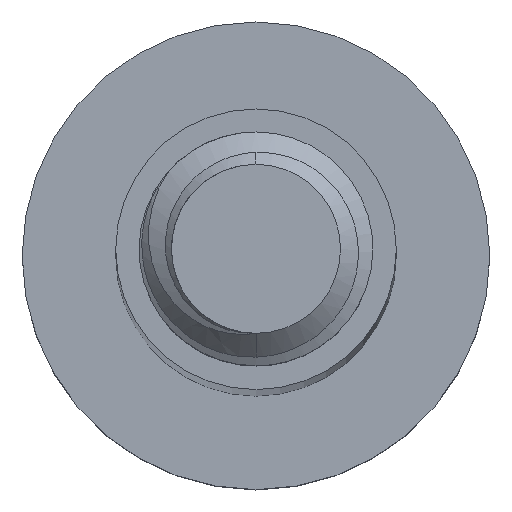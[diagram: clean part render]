
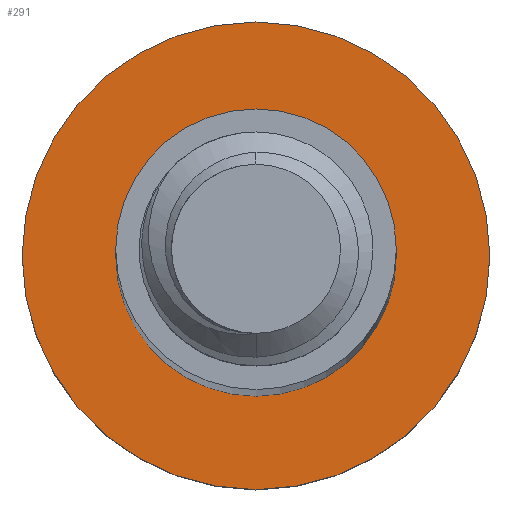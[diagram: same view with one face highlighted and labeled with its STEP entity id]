
A CAD part, top view. The second image highlights one B-rep face of the part: STEP entity #291.
In plain terms, the highlighted planar face has unit normal (0, 0, 1).
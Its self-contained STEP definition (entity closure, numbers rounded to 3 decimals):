
#82 = DIRECTION ( 'NONE',  ( -1., 0., 0. ) ) ;
#107 = ORIENTED_EDGE ( 'NONE', *, *, #181, .F. ) ;
#181 = EDGE_CURVE ( 'NONE', #1255, #2319, #709, .T. ) ;
#195 = EDGE_CURVE ( 'NONE', #2319, #1255, #302, .T. ) ;
#197 = DIRECTION ( 'NONE',  ( 0., 0., -1. ) ) ;
#291 = ADVANCED_FACE ( 'NONE', ( #2070, #951 ), #763, .F. ) ;
#302 = CIRCLE ( 'NONE', #1659, 5. ) ;
#364 = DIRECTION ( 'NONE',  ( -1., 0., 0. ) ) ;
#365 = EDGE_LOOP ( 'NONE', ( #725, #2342 ) ) ;
#469 = VERTEX_POINT ( 'NONE', #773 ) ;
#634 = EDGE_LOOP ( 'NONE', ( #2018, #107 ) ) ;
#709 = CIRCLE ( 'NONE', #1046, 5. ) ;
#720 = DIRECTION ( 'NONE',  ( -1., 0., 0. ) ) ;
#725 = ORIENTED_EDGE ( 'NONE', *, *, #736, .T. ) ;
#736 = EDGE_CURVE ( 'NONE', #469, #1608, #1557, .T. ) ;
#763 = PLANE ( 'NONE',  #1609 ) ;
#773 = CARTESIAN_POINT ( 'NONE',  ( -3., 0., -80. ) ) ;
#796 = CARTESIAN_POINT ( 'NONE',  ( 0., 0., -80. ) ) ;
#828 = CARTESIAN_POINT ( 'NONE',  ( 0., 0., -80. ) ) ;
#894 = CARTESIAN_POINT ( 'NONE',  ( 3., 0., -80. ) ) ;
#908 = AXIS2_PLACEMENT_3D ( 'NONE', #796, #1720, #1146 ) ;
#938 = DIRECTION ( 'NONE',  ( -1., 0., 0. ) ) ;
#951 = FACE_OUTER_BOUND ( 'NONE', #634, .T. ) ;
#989 = EDGE_CURVE ( 'NONE', #1608, #469, #1198, .T. ) ;
#1046 = AXIS2_PLACEMENT_3D ( 'NONE', #1494, #197, #938 ) ;
#1146 = DIRECTION ( 'NONE',  ( -1., 0., 0. ) ) ;
#1152 = DIRECTION ( 'NONE',  ( 0., 0., -1. ) ) ;
#1198 = CIRCLE ( 'NONE', #1439, 3. ) ;
#1255 = VERTEX_POINT ( 'NONE', #1340 ) ;
#1337 = CARTESIAN_POINT ( 'NONE',  ( 0., 0., -80. ) ) ;
#1340 = CARTESIAN_POINT ( 'NONE',  ( -5., 0., -80. ) ) ;
#1439 = AXIS2_PLACEMENT_3D ( 'NONE', #828, #1152, #82 ) ;
#1494 = CARTESIAN_POINT ( 'NONE',  ( 0., 0., -80. ) ) ;
#1523 = CARTESIAN_POINT ( 'NONE',  ( 0., 0., -80. ) ) ;
#1557 = CIRCLE ( 'NONE', #908, 3. ) ;
#1608 = VERTEX_POINT ( 'NONE', #894 ) ;
#1609 = AXIS2_PLACEMENT_3D ( 'NONE', #1337, #2384, #720 ) ;
#1659 = AXIS2_PLACEMENT_3D ( 'NONE', #1523, #2197, #364 ) ;
#1720 = DIRECTION ( 'NONE',  ( 0., 0., -1. ) ) ;
#2018 = ORIENTED_EDGE ( 'NONE', *, *, #195, .F. ) ;
#2070 = FACE_BOUND ( 'NONE', #365, .T. ) ;
#2186 = CARTESIAN_POINT ( 'NONE',  ( 5., 0., -80. ) ) ;
#2197 = DIRECTION ( 'NONE',  ( 0., 0., -1. ) ) ;
#2319 = VERTEX_POINT ( 'NONE', #2186 ) ;
#2342 = ORIENTED_EDGE ( 'NONE', *, *, #989, .T. ) ;
#2384 = DIRECTION ( 'NONE',  ( 0., 0., -1. ) ) ;
